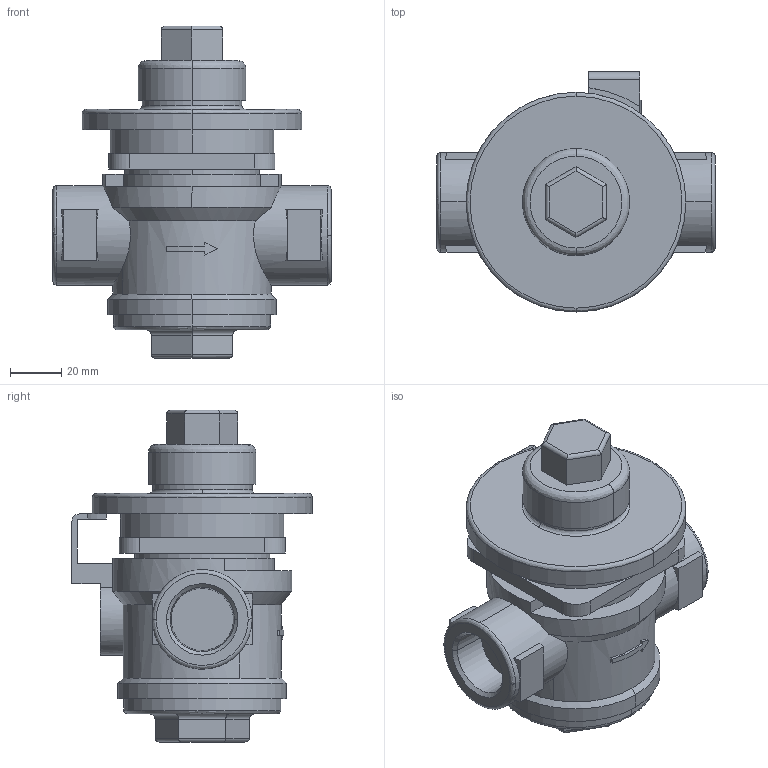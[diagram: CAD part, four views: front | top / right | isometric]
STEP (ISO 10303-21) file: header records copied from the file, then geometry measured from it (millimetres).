
FILE_DESCRIPTION( (''), '2;1');
FILE_NAME ('PC1027.12188.TSD-7 20A_29013.stp','2025-07-31T15:54:58',(''),(''),'spGate 20.6.3 (****-****-****-****)','','');
FILE_SCHEMA (('AUTOMOTIVE_DESIGN'));
Length unit declared in the file: millimetre
Products named in the file (2): Assembly; TSD-7 20A
Assembly tree (1 placements, depth 2):
  Assembly
    TSD-7 20A
Bounding box: 109 x 94 x 130 mm (x, y, z)
Volume: 401047.4 mm3; surface area: 50655.4 mm2
Topology: 1 solids, 1 shells, 154 faces, 380 edges, 245 vertices
Faces by surface type: plane 79, cylinder 50, bspline 25
Entity records: 8189 total; most frequent: CARTESIAN_POINT 1686, ORIENTED_EDGE 760, DIRECTION 644, COLOUR_RGB 535, PRESENTATION_STYLE_ASSIGNMENT 535, STYLED_ITEM 535, EDGE_CURVE 380, DRAUGHTING_PRE_DEFINED_CURVE_FONT 380
